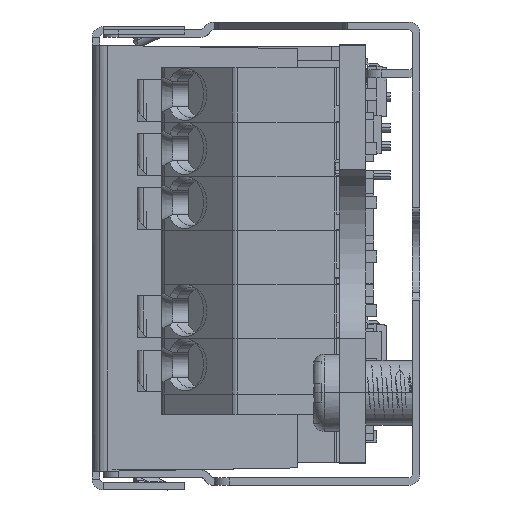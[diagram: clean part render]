
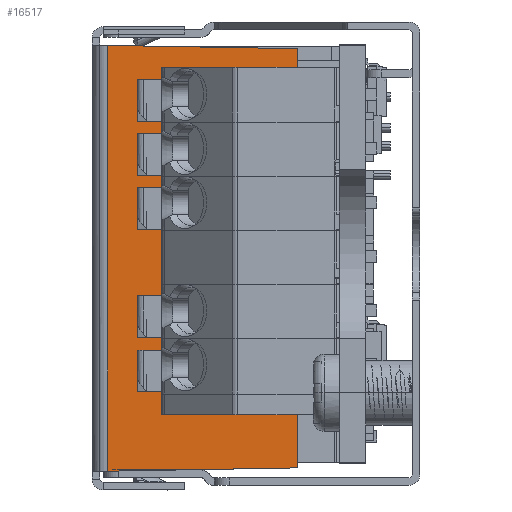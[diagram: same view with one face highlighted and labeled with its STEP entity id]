
A CAD part, left-side view. The second image highlights one B-rep face of the part: STEP entity #16517.
In plain terms, the highlighted planar face has unit normal (-1, 0, 0).
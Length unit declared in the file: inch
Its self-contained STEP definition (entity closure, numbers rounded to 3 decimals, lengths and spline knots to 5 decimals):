
#5876=CARTESIAN_POINT('',(-4.36516,-0.01968,
-0.54262));
#5907=DIRECTION('',(0.,0.,-1.));
#5908=VECTOR('',#5907,1.08524);
#5909=CARTESIAN_POINT('',(-4.36516,-0.01968,
0.54262));
#5910=LINE('',#5909,#5908);
#5914=CARTESIAN_POINT('',(-4.36516,-0.01968,
0.54262));
#8572=DIRECTION('',(0.,0.,-1.));
#8573=VECTOR('',#8572,1.06833);
#8574=CARTESIAN_POINT('',(-4.36516,-0.50394,
0.53417));
#8575=LINE('',#8574,#8573);
#8579=DIRECTION('',(0.,1.,-0.017));
#8580=VECTOR('',#8579,0.48433);
#8581=CARTESIAN_POINT('',(-4.36516,-0.50394,
-0.53417));
#8582=LINE('',#8581,#8580);
#8586=DIRECTION('',(0.,-1.,-0.017));
#8587=VECTOR('',#8586,0.48433);
#8588=CARTESIAN_POINT('',(-4.36516,-0.01968,
0.54262));
#8589=LINE('',#8588,#8587);
#11334=VERTEX_POINT('',#5876);
#11337=VERTEX_POINT('',#5914);
#11555=CARTESIAN_POINT('',(-4.36516,-0.50394,
0.53417));
#11556=CARTESIAN_POINT('',(-4.36516,-0.50394,
-0.53417));
#11557=VERTEX_POINT('',#11555);
#11558=VERTEX_POINT('',#11556);
#16504=CARTESIAN_POINT('',(-4.36516,-0.57087,
0.54331));
#16505=DIRECTION('',(-1.,0.,0.));
#16506=DIRECTION('',(0.,1.,0.));
#16507=AXIS2_PLACEMENT_3D('',#16504,#16505,#16506);
#16508=PLANE('',#16507);
#16509=ORIENTED_EDGE('',*,*,#16494,.T.);
#16511=ORIENTED_EDGE('',*,*,#16510,.T.);
#16512=ORIENTED_EDGE('',*,*,#12156,.F.);
#16514=ORIENTED_EDGE('',*,*,#16513,.T.);
#16515=EDGE_LOOP('',(#16509,#16511,#16512,#16514));
#16516=FACE_OUTER_BOUND('',#16515,.F.);
#16517=ADVANCED_FACE('',(#16516),#16508,.T.);
#12156=EDGE_CURVE('',#11337,#11334,#5910,.T.);
#16494=EDGE_CURVE('',#11557,#11558,#8575,.T.);
#16510=EDGE_CURVE('',#11558,#11334,#8582,.T.);
#16513=EDGE_CURVE('',#11337,#11557,#8589,.T.);
